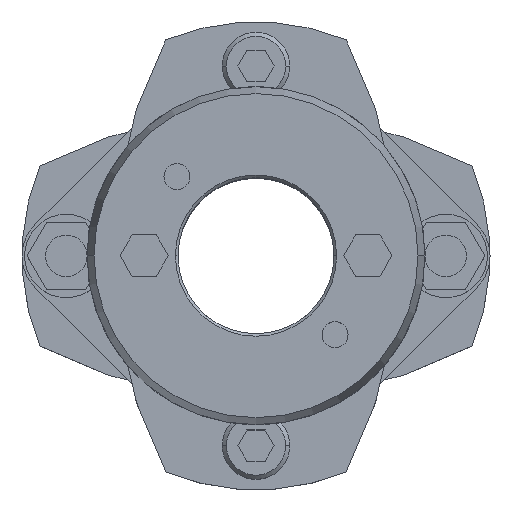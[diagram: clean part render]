
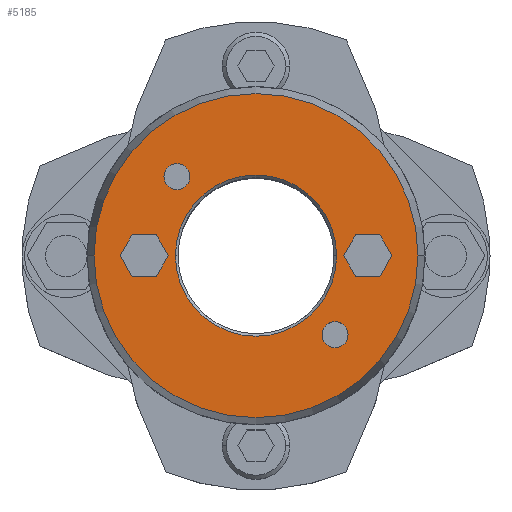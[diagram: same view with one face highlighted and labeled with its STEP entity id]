
A CAD part, top view. The second image highlights one B-rep face of the part: STEP entity #5185.
In plain terms, the highlighted planar face has unit normal (0, 0, 1).
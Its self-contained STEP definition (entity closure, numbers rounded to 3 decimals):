
#857=CARTESIAN_POINT('',(-15.5,0.,39.25));
#858=VERTEX_POINT('',#857);
#874=CARTESIAN_POINT('',(15.5,0.,39.25));
#875=VERTEX_POINT('',#874);
#882=CARTESIAN_POINT('',(0.,0.,39.25));
#883=DIRECTION('',(0.0,0.0,1.0));
#884=DIRECTION('',(-1.0,0.0,0.0));
#885=AXIS2_PLACEMENT_3D('',#882,#883,#884);
#886=CIRCLE('',#885,15.5);
#887=EDGE_CURVE('',#875,#858,#886,.T.);
#1003=CARTESIAN_POINT('',(31.16,0.,39.25));
#1004=VERTEX_POINT('',#1003);
#1013=CARTESIAN_POINT('',(-31.16,0.,39.25));
#1014=VERTEX_POINT('',#1013);
#1015=CARTESIAN_POINT('',(0.,0.,39.25));
#1016=DIRECTION('',(0.0,0.0,-1.0));
#1017=DIRECTION('',(1.0,0.0,0.0));
#1018=AXIS2_PLACEMENT_3D('',#1015,#1016,#1017);
#1019=CIRCLE('',#1018,31.16);
#1020=EDGE_CURVE('',#1004,#1014,#1019,.T.);
#1337=CARTESIAN_POINT('',(-17.703,15.203,39.25));
#1338=VERTEX_POINT('',#1337);
#1354=CARTESIAN_POINT('',(-12.703,15.203,39.25));
#1355=VERTEX_POINT('',#1354);
#1362=CARTESIAN_POINT('',(-15.203,15.203,39.25));
#1363=DIRECTION('',(0.0,0.0,-1.0));
#1364=DIRECTION('',(-1.0,0.0,0.0));
#1365=AXIS2_PLACEMENT_3D('',#1362,#1363,#1364);
#1366=CIRCLE('',#1365,2.5);
#1367=EDGE_CURVE('',#1338,#1355,#1366,.T.);
#1379=CARTESIAN_POINT('',(12.703,-15.203,39.25));
#1380=VERTEX_POINT('',#1379);
#1396=CARTESIAN_POINT('',(17.703,-15.203,39.25));
#1397=VERTEX_POINT('',#1396);
#1404=CARTESIAN_POINT('',(15.203,-15.203,39.25));
#1405=DIRECTION('',(0.0,0.0,-1.0));
#1406=DIRECTION('',(-1.0,0.0,0.0));
#1407=AXIS2_PLACEMENT_3D('',#1404,#1405,#1406);
#1408=CIRCLE('',#1407,2.5);
#1409=EDGE_CURVE('',#1380,#1397,#1408,.T.);
#3791=CARTESIAN_POINT('',(16.881,0.,39.25));
#3792=VERTEX_POINT('',#3791);
#3799=CARTESIAN_POINT('',(19.191,-4.,39.25));
#3800=VERTEX_POINT('',#3799);
#3801=CARTESIAN_POINT('',(19.191,-4.,39.25));
#3802=DIRECTION('',(-0.5,0.866,0.0));
#3803=VECTOR('',#3802,4.619);
#3804=LINE('',#3801,#3803);
#3805=EDGE_CURVE('',#3800,#3792,#3804,.T.);
#3829=CARTESIAN_POINT('',(19.191,4.,39.25));
#3830=VERTEX_POINT('',#3829);
#3837=CARTESIAN_POINT('',(16.881,0.,39.25));
#3838=DIRECTION('',(0.5,0.866,0.0));
#3839=VECTOR('',#3838,4.619);
#3840=LINE('',#3837,#3839);
#3841=EDGE_CURVE('',#3792,#3830,#3840,.T.);
#3860=CARTESIAN_POINT('',(23.809,4.,39.25));
#3861=VERTEX_POINT('',#3860);
#3868=CARTESIAN_POINT('',(19.191,4.,39.25));
#3869=DIRECTION('',(1.0,0.0,0.0));
#3870=VECTOR('',#3869,4.619);
#3871=LINE('',#3868,#3870);
#3872=EDGE_CURVE('',#3830,#3861,#3871,.T.);
#3891=CARTESIAN_POINT('',(26.119,0.,39.25));
#3892=VERTEX_POINT('',#3891);
#3899=CARTESIAN_POINT('',(23.809,4.,39.25));
#3900=DIRECTION('',(0.5,-0.866,0.0));
#3901=VECTOR('',#3900,4.619);
#3902=LINE('',#3899,#3901);
#3903=EDGE_CURVE('',#3861,#3892,#3902,.T.);
#3922=CARTESIAN_POINT('',(23.809,-4.,39.25));
#3923=VERTEX_POINT('',#3922);
#3930=CARTESIAN_POINT('',(26.119,0.,39.25));
#3931=DIRECTION('',(-0.5,-0.866,0.0));
#3932=VECTOR('',#3931,4.619);
#3933=LINE('',#3930,#3932);
#3934=EDGE_CURVE('',#3892,#3923,#3933,.T.);
#3952=CARTESIAN_POINT('',(23.809,-4.,39.25));
#3953=DIRECTION('',(-1.0,0.0,0.0));
#3954=VECTOR('',#3953,4.619);
#3955=LINE('',#3952,#3954);
#3956=EDGE_CURVE('',#3923,#3800,#3955,.T.);
#3991=CARTESIAN_POINT('',(-26.119,0.,39.25));
#3992=VERTEX_POINT('',#3991);
#3999=CARTESIAN_POINT('',(-23.809,-4.,39.25));
#4000=VERTEX_POINT('',#3999);
#4001=CARTESIAN_POINT('',(-23.809,-4.,39.25));
#4002=DIRECTION('',(-0.5,0.866,0.0));
#4003=VECTOR('',#4002,4.619);
#4004=LINE('',#4001,#4003);
#4005=EDGE_CURVE('',#4000,#3992,#4004,.T.);
#4029=CARTESIAN_POINT('',(-23.809,4.,39.25));
#4030=VERTEX_POINT('',#4029);
#4037=CARTESIAN_POINT('',(-26.119,0.,39.25));
#4038=DIRECTION('',(0.5,0.866,0.0));
#4039=VECTOR('',#4038,4.619);
#4040=LINE('',#4037,#4039);
#4041=EDGE_CURVE('',#3992,#4030,#4040,.T.);
#4060=CARTESIAN_POINT('',(-19.191,4.,39.25));
#4061=VERTEX_POINT('',#4060);
#4068=CARTESIAN_POINT('',(-23.809,4.,39.25));
#4069=DIRECTION('',(1.0,0.0,0.0));
#4070=VECTOR('',#4069,4.619);
#4071=LINE('',#4068,#4070);
#4072=EDGE_CURVE('',#4030,#4061,#4071,.T.);
#4091=CARTESIAN_POINT('',(-16.881,0.,39.25));
#4092=VERTEX_POINT('',#4091);
#4099=CARTESIAN_POINT('',(-19.191,4.,39.25));
#4100=DIRECTION('',(0.5,-0.866,0.0));
#4101=VECTOR('',#4100,4.619);
#4102=LINE('',#4099,#4101);
#4103=EDGE_CURVE('',#4061,#4092,#4102,.T.);
#4122=CARTESIAN_POINT('',(-19.191,-4.,39.25));
#4123=VERTEX_POINT('',#4122);
#4130=CARTESIAN_POINT('',(-16.881,0.,39.25));
#4131=DIRECTION('',(-0.5,-0.866,0.0));
#4132=VECTOR('',#4131,4.619);
#4133=LINE('',#4130,#4132);
#4134=EDGE_CURVE('',#4092,#4123,#4133,.T.);
#4152=CARTESIAN_POINT('',(-19.191,-4.,39.25));
#4153=DIRECTION('',(-1.0,0.0,0.0));
#4154=VECTOR('',#4153,4.619);
#4155=LINE('',#4152,#4154);
#4156=EDGE_CURVE('',#4123,#4000,#4155,.T.);
#4182=CARTESIAN_POINT('',(15.203,-15.203,39.25));
#4183=DIRECTION('',(0.0,0.0,-1.0));
#4184=DIRECTION('',(-1.0,0.0,0.0));
#4185=AXIS2_PLACEMENT_3D('',#4182,#4183,#4184);
#4186=CIRCLE('',#4185,2.5);
#4187=EDGE_CURVE('',#1397,#1380,#4186,.T.);
#4216=CARTESIAN_POINT('',(-15.203,15.203,39.25));
#4217=DIRECTION('',(0.0,0.0,-1.0));
#4218=DIRECTION('',(-1.0,0.0,0.0));
#4219=AXIS2_PLACEMENT_3D('',#4216,#4217,#4218);
#4220=CIRCLE('',#4219,2.5);
#4221=EDGE_CURVE('',#1355,#1338,#4220,.T.);
#5132=CARTESIAN_POINT('',(0.,0.,39.25));
#5133=DIRECTION('',(0.0,0.0,-1.0));
#5134=DIRECTION('',(1.0,0.0,0.0));
#5135=AXIS2_PLACEMENT_3D('',#5132,#5133,#5134);
#5136=CIRCLE('',#5135,31.16);
#5137=EDGE_CURVE('',#1014,#1004,#5136,.T.);
#5142=CARTESIAN_POINT('',(-2.682,0.,39.25));
#5143=DIRECTION('',(0.0,0.0,1.0));
#5144=DIRECTION('',(-1.0,0.0,0.0));
#5145=AXIS2_PLACEMENT_3D('',#5142,#5143,#5144);
#5146=PLANE('',#5145);
#5147=ORIENTED_EDGE('',*,*,#5137,.F.);
#5148=ORIENTED_EDGE('',*,*,#1020,.F.);
#5149=EDGE_LOOP('',(#5147,#5148));
#5150=FACE_OUTER_BOUND('',#5149,.T.);
#5151=ORIENTED_EDGE('',*,*,#3805,.T.);
#5152=ORIENTED_EDGE('',*,*,#3841,.T.);
#5153=ORIENTED_EDGE('',*,*,#3872,.T.);
#5154=ORIENTED_EDGE('',*,*,#3903,.T.);
#5155=ORIENTED_EDGE('',*,*,#3934,.T.);
#5156=ORIENTED_EDGE('',*,*,#3956,.T.);
#5157=EDGE_LOOP('',(#5151,#5152,#5153,#5154,#5155,#5156));
#5158=FACE_BOUND('',#5157,.T.);
#5159=ORIENTED_EDGE('',*,*,#4005,.T.);
#5160=ORIENTED_EDGE('',*,*,#4041,.T.);
#5161=ORIENTED_EDGE('',*,*,#4072,.T.);
#5162=ORIENTED_EDGE('',*,*,#4103,.T.);
#5163=ORIENTED_EDGE('',*,*,#4134,.T.);
#5164=ORIENTED_EDGE('',*,*,#4156,.T.);
#5165=EDGE_LOOP('',(#5159,#5160,#5161,#5162,#5163,#5164));
#5166=FACE_BOUND('',#5165,.T.);
#5167=ORIENTED_EDGE('',*,*,#1409,.T.);
#5168=ORIENTED_EDGE('',*,*,#4187,.T.);
#5169=EDGE_LOOP('',(#5167,#5168));
#5170=FACE_BOUND('',#5169,.T.);
#5171=ORIENTED_EDGE('',*,*,#1367,.T.);
#5172=ORIENTED_EDGE('',*,*,#4221,.T.);
#5173=EDGE_LOOP('',(#5171,#5172));
#5174=FACE_BOUND('',#5173,.T.);
#5175=ORIENTED_EDGE('',*,*,#887,.F.);
#5176=CARTESIAN_POINT('',(0.,0.,39.25));
#5177=DIRECTION('',(0.0,0.0,1.0));
#5178=DIRECTION('',(-1.0,0.0,0.0));
#5179=AXIS2_PLACEMENT_3D('',#5176,#5177,#5178);
#5180=CIRCLE('',#5179,15.5);
#5181=EDGE_CURVE('',#858,#875,#5180,.T.);
#5182=ORIENTED_EDGE('',*,*,#5181,.F.);
#5183=EDGE_LOOP('',(#5175,#5182));
#5184=FACE_BOUND('',#5183,.T.);
#5185=ADVANCED_FACE('',(#5150,#5158,#5166,#5170,#5174,#5184),#5146,.T.);
